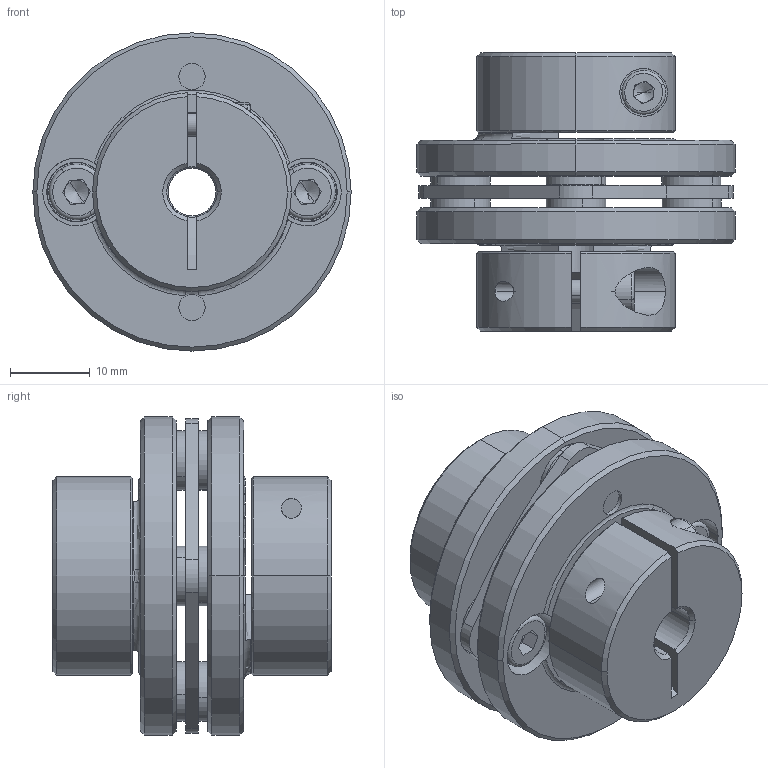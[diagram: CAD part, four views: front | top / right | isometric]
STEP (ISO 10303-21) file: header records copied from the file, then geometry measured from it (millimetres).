
FILE_DESCRIPTION (( 'STEP AP203' ), '1' );
FILE_NAME ('LE1-B-D40L35-6-6.35.STEP', '2021-11-01T02:03:12', ( '' ), ( '' ), 'SwSTEP 2.0', 'SolidWorks 2018', '' );
FILE_SCHEMA (( 'CONFIG_CONTROL_DESIGN' ));
Length unit declared in the file: millimetre
Products named in the file (1): LE1-B-D40L35-6-6.35
Bounding box: 40 x 35 x 40 mm (x, y, z)
Volume: 20994.1 mm3; surface area: 12831.3 mm2
Topology: 1 solids, 13 shells, 423 faces, 1021 edges, 630 vertices
Faces by surface type: cylinder 149, plane 140, cone 114, torus 18, bspline 2
Entity records: 12770 total; most frequent: CARTESIAN_POINT 2463, DIRECTION 2335, ORIENTED_EDGE 2018, EDGE_CURVE 1009, AXIS2_PLACEMENT_3D 952, VERTEX_POINT 630, CIRCLE 530, EDGE_LOOP 491
